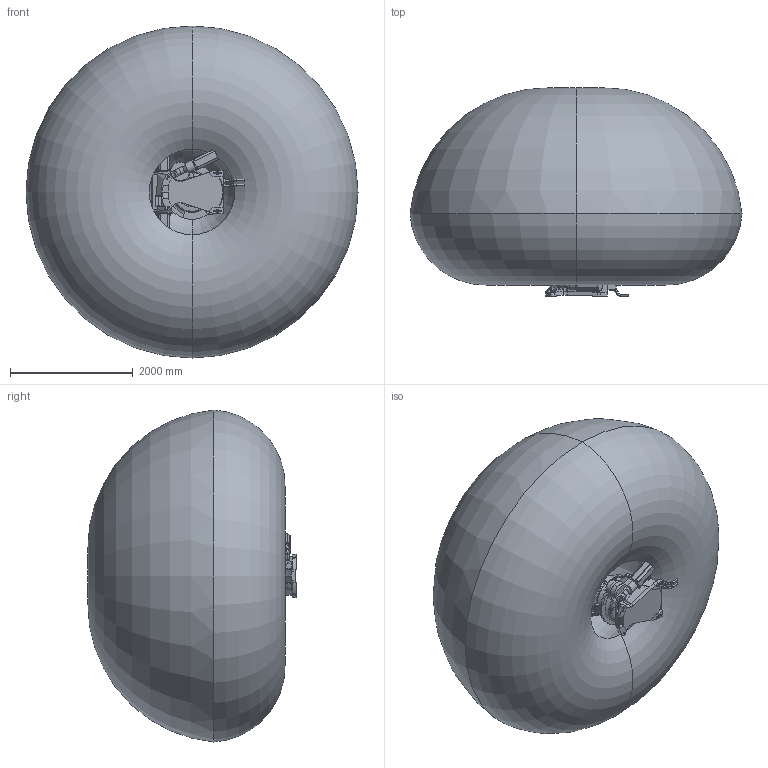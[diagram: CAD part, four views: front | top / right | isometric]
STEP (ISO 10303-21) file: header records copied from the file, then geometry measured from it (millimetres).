
FILE_DESCRIPTION (( 'STEP AP214' ), '1' );
FILE_NAME ('SMART NJ 450-2.7 (3D-STEP).STEP', '2008-10-06T09:11:47', ( 'Comau' ), ( 'Comau S.p.A.' ), 'SwSTEP 2.0', 'SolidWorks 2005235', '' );
FILE_SCHEMA (( 'AUTOMOTIVE_DESIGN' ));
Length unit declared in the file: millimetre
Products named in the file (18): SMART NJ 450-2.7_P09; SMART NJ 450-2.7_P10; SMART NJ 450-2.7_P11; SMART NJ 450-2.7_P02; SMART NJ 450-2.7_P03; SMART NJ 450-2.7_P04; SMART NJ 450-2.7_P12; SMART NJ 450-2.7_P05; SMART NJ 450-2.7_CR82309740_LAFERT-SM; SMART NJ 450-2.7_P08; SMART NJ 450-2.7_P01; SMART NJ 450-2.7_P06; SMART NJ 450-2.7_P07; Operation area SMART NJ 450-2.7; SMART NJ 450-2.7_P13; SMART NJ 450-2.7_P14; SMART NJ 450-2.7_CR82309760_LAFERT-SM; SMART NJ 450-2.7 (3D-STEP)
Assembly tree (23 placements, depth 2):
  SMART NJ 450-2.7 (3D-STEP)
    SMART NJ 450-2.7_P12
    SMART NJ 450-2.7_CR82309760_LAFERT-SM  x3
    SMART NJ 450-2.7_P06
    SMART NJ 450-2.7_CR82309740_LAFERT-SM  x3
    SMART NJ 450-2.7_P04
    SMART NJ 450-2.7_P14
    SMART NJ 450-2.7_P05
    SMART NJ 450-2.7_P09  x2
    SMART NJ 450-2.7_P08  x2
    SMART NJ 450-2.7_P03
    SMART NJ 450-2.7_P11
    SMART NJ 450-2.7_P13
    SMART NJ 450-2.7_P10
    SMART NJ 450-2.7_P01
    SMART NJ 450-2.7_P07
    Operation area SMART NJ 450-2.7
    SMART NJ 450-2.7_P02
Bounding box: 5405.73 x 3391.75 x 5405.73 mm (x, y, z)
Volume: 47882876131.3 mm3; surface area: 108586226.1 mm2
Topology: 24 solids, 38 shells, 5064 faces, 13229 edges, 8319 vertices
Faces by surface type: plane 2146, cylinder 2075, bspline 405, torus 184, cone 171, sphere 83
Entity records: 168957 total; most frequent: CARTESIAN_POINT 55825, ORIENTED_EDGE 23286, DIRECTION 21662, EDGE_CURVE 11643, AXIS2_PLACEMENT_3D 7876, VERTEX_POINT 7463, VECTOR 5910, LINE 5910
